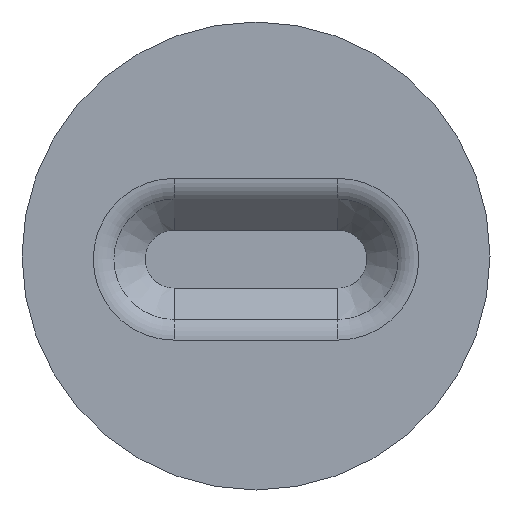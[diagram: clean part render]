
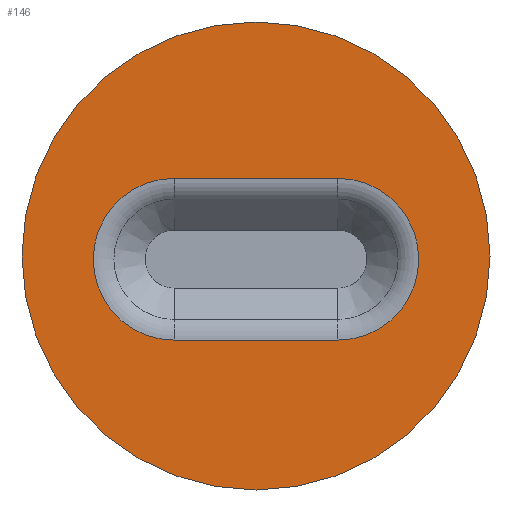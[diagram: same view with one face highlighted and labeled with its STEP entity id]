
A CAD part, front view. The second image highlights one B-rep face of the part: STEP entity #146.
In plain terms, the highlighted planar face has unit normal (0, -1, 0).
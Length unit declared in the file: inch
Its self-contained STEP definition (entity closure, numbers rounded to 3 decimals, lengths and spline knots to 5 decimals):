
#12 = CARTESIAN_POINT ( 'NONE',  ( 0., -0.232, 0.33198 ) ) ;
#16 = EDGE_CURVE ( 'NONE', #280, #732, #296, .T. ) ;
#36 = CARTESIAN_POINT ( 'NONE',  ( 0., -0.232, -0.35938 ) ) ;
#42 = CARTESIAN_POINT ( 'NONE',  ( 0., -0.232, 0. ) ) ;
#43 = DIRECTION ( 'NONE',  ( 0., 0., -1. ) ) ;
#67 = VERTEX_POINT ( 'NONE', #510 ) ;
#104 = VERTEX_POINT ( 'NONE', #334 ) ;
#111 = EDGE_CURVE ( 'NONE', #537, #104, #618, .T. ) ;
#146 = ADVANCED_FACE ( 'NONE', ( #159, #342 ), #282, .T. ) ;
#159 = FACE_BOUND ( 'NONE', #697, .T. ) ;
#208 = DIRECTION ( 'NONE',  ( 0., -1., 0. ) ) ;
#211 = ORIENTED_EDGE ( 'NONE', *, *, #111, .T. ) ;
#229 = DIRECTION ( 'NONE',  ( 0., -1., 0. ) ) ;
#235 = ORIENTED_EDGE ( 'NONE', *, *, #409, .F. ) ;
#242 = CARTESIAN_POINT ( 'NONE',  ( 0.35, -0.232, -0.35938 ) ) ;
#252 = VECTOR ( 'NONE', #629, 39.37008 ) ;
#261 = LINE ( 'NONE', #36, #252 ) ;
#280 = VERTEX_POINT ( 'NONE', #242 ) ;
#282 = PLANE ( 'NONE',  #734 ) ;
#288 = LINE ( 'NONE', #12, #748 ) ;
#294 = ORIENTED_EDGE ( 'NONE', *, *, #16, .F. ) ;
#296 = CIRCLE ( 'NONE', #693, 0.34568 ) ;
#324 = DIRECTION ( 'NONE',  ( 0., 0., -1. ) ) ;
#334 = CARTESIAN_POINT ( 'NONE',  ( 0., -0.232, -1. ) ) ;
#342 = FACE_OUTER_BOUND ( 'NONE', #668, .T. ) ;
#346 = DIRECTION ( 'NONE',  ( 0., 0., -1. ) ) ;
#390 = CARTESIAN_POINT ( 'NONE',  ( 0., -0.232, 1. ) ) ;
#396 = CARTESIAN_POINT ( 'NONE',  ( 0., -0.232, 0. ) ) ;
#406 = ORIENTED_EDGE ( 'NONE', *, *, #445, .F. ) ;
#409 = EDGE_CURVE ( 'NONE', #67, #280, #261, .T. ) ;
#416 = VERTEX_POINT ( 'NONE', #491 ) ;
#441 = CIRCLE ( 'NONE', #698, 0.34568 ) ;
#445 = EDGE_CURVE ( 'NONE', #416, #67, #441, .T. ) ;
#464 = DIRECTION ( 'NONE',  ( 0., 0., -1. ) ) ;
#491 = CARTESIAN_POINT ( 'NONE',  ( -0.35, -0.232, 0.33198 ) ) ;
#496 = CARTESIAN_POINT ( 'NONE',  ( 0.35, -0.232, -0.0137 ) ) ;
#510 = CARTESIAN_POINT ( 'NONE',  ( -0.35, -0.232, -0.35938 ) ) ;
#521 = CARTESIAN_POINT ( 'NONE',  ( 0., -0.232, 0. ) ) ;
#523 = EDGE_CURVE ( 'NONE', #104, #537, #594, .T. ) ;
#537 = VERTEX_POINT ( 'NONE', #390 ) ;
#539 = AXIS2_PLACEMENT_3D ( 'NONE', #42, #591, #346 ) ;
#567 = CARTESIAN_POINT ( 'NONE',  ( -0.35, -0.232, -0.0137 ) ) ;
#571 = ORIENTED_EDGE ( 'NONE', *, *, #706, .F. ) ;
#575 = DIRECTION ( 'NONE',  ( 0., -1., 0. ) ) ;
#589 = ORIENTED_EDGE ( 'NONE', *, *, #523, .T. ) ;
#591 = DIRECTION ( 'NONE',  ( 0., -1., 0. ) ) ;
#594 = CIRCLE ( 'NONE', #775, 1. ) ;
#618 = CIRCLE ( 'NONE', #539, 1. ) ;
#629 = DIRECTION ( 'NONE',  ( 1., 0., 0. ) ) ;
#666 = CARTESIAN_POINT ( 'NONE',  ( 0.35, -0.232, 0.33198 ) ) ;
#668 = EDGE_LOOP ( 'NONE', ( #589, #211 ) ) ;
#691 = DIRECTION ( 'NONE',  ( 0., 0., -1. ) ) ;
#693 = AXIS2_PLACEMENT_3D ( 'NONE', #496, #751, #324 ) ;
#697 = EDGE_LOOP ( 'NONE', ( #571, #294, #235, #406 ) ) ;
#698 = AXIS2_PLACEMENT_3D ( 'NONE', #567, #208, #691 ) ;
#706 = EDGE_CURVE ( 'NONE', #732, #416, #288, .T. ) ;
#714 = DIRECTION ( 'NONE',  ( -1., 0., 0. ) ) ;
#732 = VERTEX_POINT ( 'NONE', #666 ) ;
#734 = AXIS2_PLACEMENT_3D ( 'NONE', #521, #229, #464 ) ;
#748 = VECTOR ( 'NONE', #714, 39.37008 ) ;
#751 = DIRECTION ( 'NONE',  ( 0., -1., 0. ) ) ;
#775 = AXIS2_PLACEMENT_3D ( 'NONE', #396, #575, #43 ) ;
